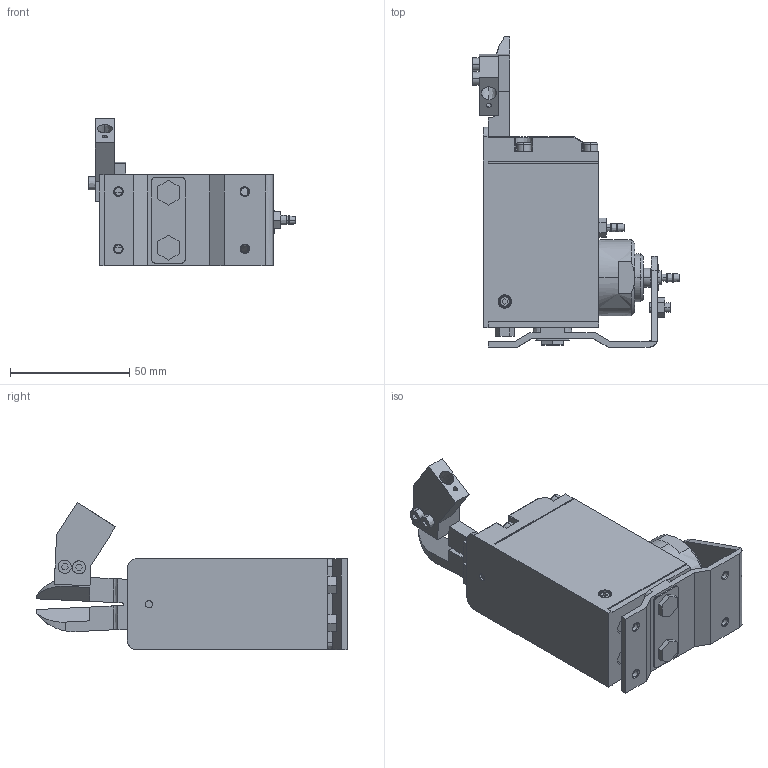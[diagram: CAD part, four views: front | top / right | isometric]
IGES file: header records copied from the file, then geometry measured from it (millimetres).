
Start section:  PTC IGES file: 060354_gt-nth10.igs
Global section: file name: 060354_gt-nth10.igs; native system: Pro/ENGINEER by Parametric Technology Corporation; preprocessor: 2004090; author: KAIHATSU01; organization: Unknown; date: 061017.102300; units: millimetre
Bounding box: 87.06 x 130.1 x 61.65 mm (x, y, z)
Volume: 179630.5 mm3; surface area: 32844.4 mm2
Topology: 1 solids, 1 shells, 391 faces, 980 edges, 632 vertices
Faces by surface type: bspline 391
